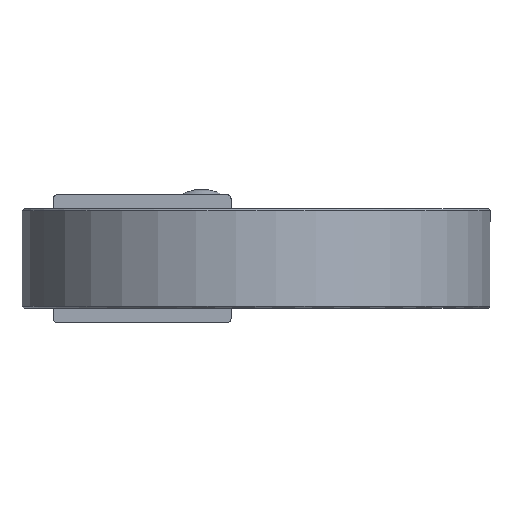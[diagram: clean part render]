
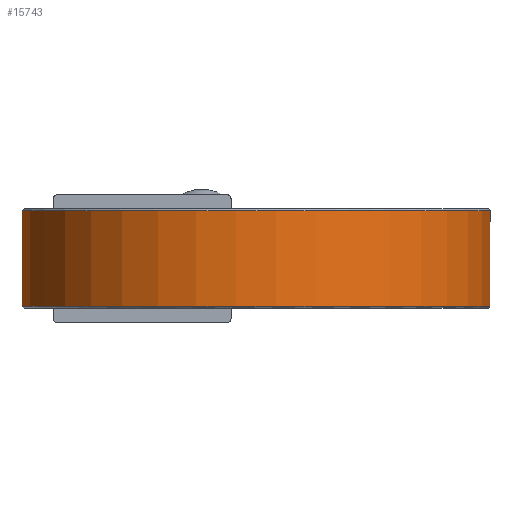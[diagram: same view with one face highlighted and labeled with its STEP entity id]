
A CAD part, left-side view. The second image highlights one B-rep face of the part: STEP entity #15743.
In plain terms, the highlighted cylindrical face has radius 165 mm (diameter 330 mm), a partial arc.
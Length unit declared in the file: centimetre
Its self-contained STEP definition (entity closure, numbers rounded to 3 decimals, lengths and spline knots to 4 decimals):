
#2904=VECTOR('',#20059,1.);
#2905=VECTOR('',#20060,1.);
#3905=LINE('',#34112,#2904);
#3906=LINE('',#34118,#2905);
#6145=VERTEX_POINT('',#34108);
#6146=VERTEX_POINT('',#34109);
#6147=VERTEX_POINT('',#34113);
#6148=VERTEX_POINT('',#34117);
#6698=CIRCLE('',#16965,16.5);
#6703=CIRCLE('',#16973,16.5);
#8645=EDGE_CURVE('',#6146,#6145,#6698,.T.);
#8646=EDGE_CURVE('',#6145,#6147,#3905,.T.);
#8648=EDGE_CURVE('',#6146,#6148,#3906,.T.);
#8653=EDGE_CURVE('',#6147,#6148,#6703,.T.);
#12556=ORIENTED_EDGE('',*,*,#8645,.F.);
#12557=ORIENTED_EDGE('',*,*,#8648,.T.);
#12558=ORIENTED_EDGE('',*,*,#8653,.F.);
#12559=ORIENTED_EDGE('',*,*,#8646,.F.);
#13723=EDGE_LOOP('',(#12556,#12557,#12558,#12559));
#14869=FACE_BOUND('',#13723,.T.);
#15743=ADVANCED_FACE('',(#14869),#34431,.T.);
#16965=AXIS2_PLACEMENT_3D('',#34110,#20056,#20057);
#16973=AXIS2_PLACEMENT_3D('',#34129,#20072,#20073);
#16983=AXIS2_PLACEMENT_3D('',#34142,#20089,#20090);
#20056=DIRECTION('',(0.,0.,1.));
#20057=DIRECTION('',(-16.5,0.,0.));
#20059=DIRECTION('',(0.,0.,-1.));
#20060=DIRECTION('',(0.,0.,-1.));
#20072=DIRECTION('',(0.,0.,-1.));
#20073=DIRECTION('',(-16.5,0.,0.));
#20089=DIRECTION('',(0.,0.,-1.));
#20090=DIRECTION('',(-16.5,0.,0.));
#34108=CARTESIAN_POINT('',(-5.519,-8.5832,5.5968));
#34109=CARTESIAN_POINT('',(-5.519,-4.9555,5.5968));
#34110=CARTESIAN_POINT('',(-21.919,-6.7693,5.5968));
#34112=CARTESIAN_POINT('',(-5.519,-8.5832,5.7468));
#34113=CARTESIAN_POINT('',(-5.519,-8.5832,-1.1032));
#34117=CARTESIAN_POINT('',(-5.519,-4.9555,-1.1032));
#34118=CARTESIAN_POINT('',(-5.519,-4.9555,5.7468));
#34129=CARTESIAN_POINT('',(-21.919,-6.7693,-1.1032));
#34142=CARTESIAN_POINT('',(-21.919,-6.7693,5.7468));
#34431=CYLINDRICAL_SURFACE('',#16983,16.5);
